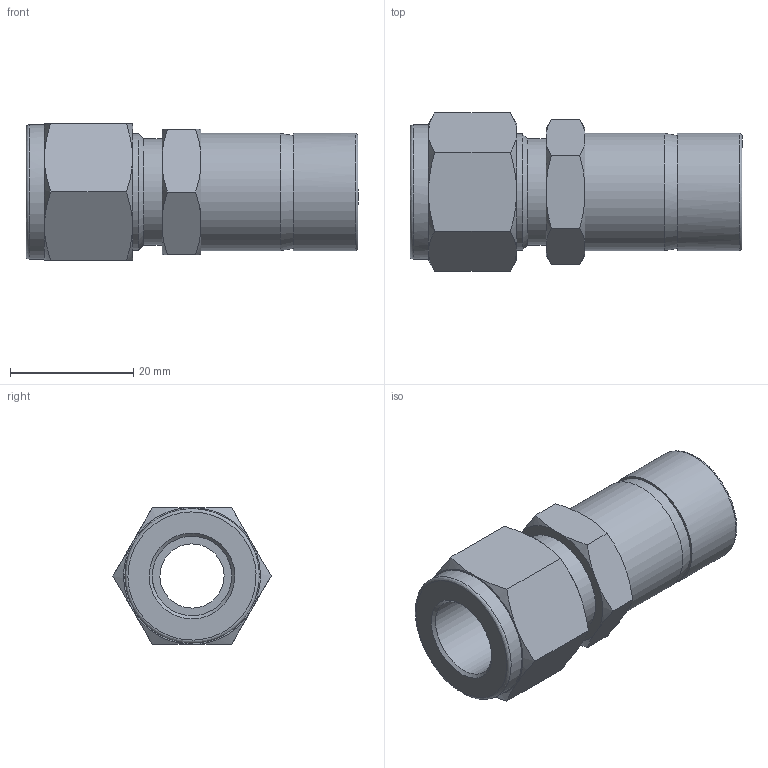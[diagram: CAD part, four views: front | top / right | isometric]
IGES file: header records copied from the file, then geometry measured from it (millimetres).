
Global section: file name: SR-8-12; native system: Autodesk Inventor 2016; preprocessor: unknown; author: DESIGNPC2; date: 20151112.200510; units: millimetre
Bounding box: 53.9 x 25.67 x 22.23 mm (x, y, z)
Volume: 10086.4 mm3; surface area: 6629.3 mm2
Topology: 1 solids, 1 shells, 59 faces, 166 edges, 116 vertices
Faces by surface type: bspline 59
